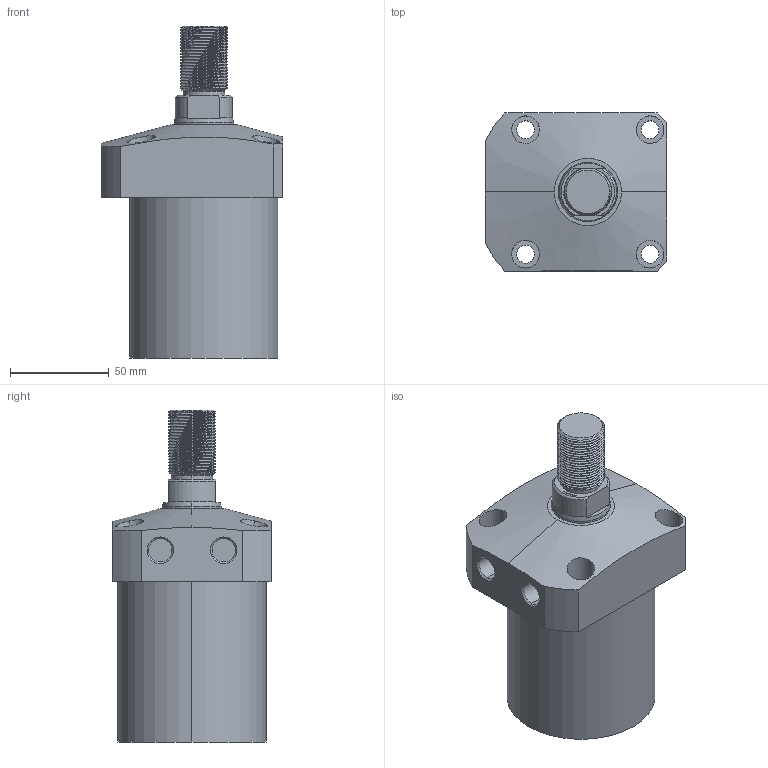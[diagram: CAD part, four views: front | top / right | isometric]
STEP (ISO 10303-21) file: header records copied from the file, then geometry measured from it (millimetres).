
FILE_DESCRIPTION (( 'STEP AP203' ), '1' );
FILE_NAME ('CLL-075CT-065.STEP', '2020-01-08T11:56:00', ( '' ), ( '' ), 'SwSTEP 2.0', 'SolidWorks 2015', '' );
FILE_SCHEMA (( 'CONFIG_CONTROL_DESIGN' ));
Length unit declared in the file: millimetre
Products named in the file (1): CLL-075CT-065
Bounding box: 92 x 80 x 168 mm (x, y, z)
Volume: 601064.2 mm3; surface area: 53459 mm2
Topology: 1 solids, 1 shells, 122 faces, 312 edges, 204 vertices
Faces by surface type: cylinder 77, plane 25, cone 16, bspline 4
Entity records: 7961 total; most frequent: CARTESIAN_POINT 5165, ORIENTED_EDGE 624, DIRECTION 511, EDGE_CURVE 312, VERTEX_POINT 204, AXIS2_PLACEMENT_3D 199, EDGE_LOOP 142, ADVANCED_FACE 122
